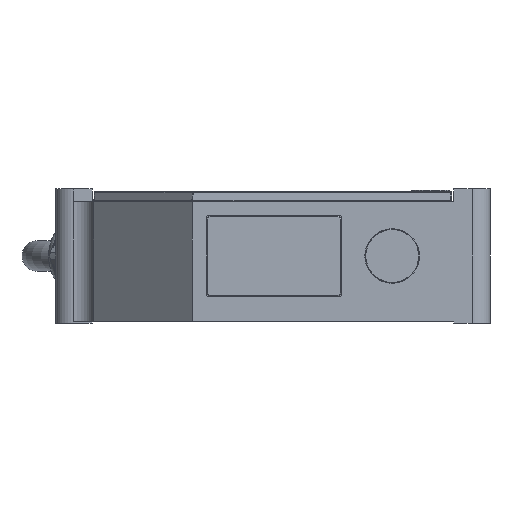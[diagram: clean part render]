
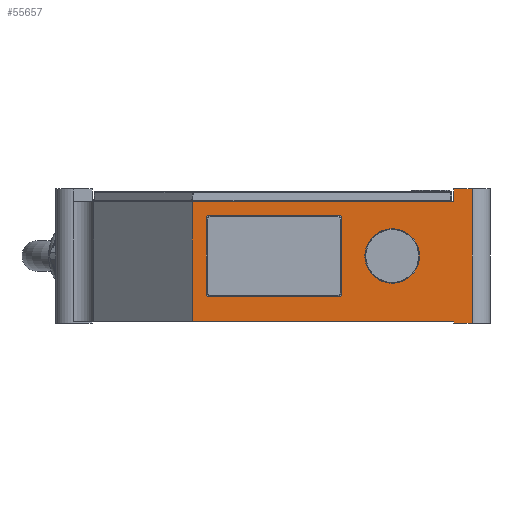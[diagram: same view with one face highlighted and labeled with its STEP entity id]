
A CAD part, front view. The second image highlights one B-rep face of the part: STEP entity #55657.
In plain terms, the highlighted planar face has unit normal (0, -1, 0).
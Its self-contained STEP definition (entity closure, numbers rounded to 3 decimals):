
#73 = FACE_BOUND ( 'NONE', #33496, .T. ) ;
#274 = VERTEX_POINT ( 'NONE', #63551 ) ;
#359 = LINE ( 'NONE', #23720, #47592 ) ;
#659 = CARTESIAN_POINT ( 'NONE',  ( -4., 0., -0.4 ) ) ;
#1026 = LINE ( 'NONE', #49041, #34990 ) ;
#1147 = ORIENTED_EDGE ( 'NONE', *, *, #40603, .F. ) ;
#1247 = VERTEX_POINT ( 'NONE', #55670 ) ;
#1859 = DIRECTION ( 'NONE',  ( 1., 0., 0. ) ) ;
#2172 = CARTESIAN_POINT ( 'NONE',  ( -4., 0., 26.7 ) ) ;
#2184 = CARTESIAN_POINT ( 'NONE',  ( -8.1, 0., 29.6 ) ) ;
#2214 = CARTESIAN_POINT ( 'NONE',  ( -8.1, 0., -0.4 ) ) ;
#2362 = CARTESIAN_POINT ( 'NONE',  ( -33.65, 0., 5.5 ) ) ;
#2383 = VECTOR ( 'NONE', #22023, 1000. ) ;
#2472 = EDGE_LOOP ( 'NONE', ( #7253 ) ) ;
#5381 = ORIENTED_EDGE ( 'NONE', *, *, #58037, .F. ) ;
#5930 = CARTESIAN_POINT ( 'NONE',  ( -4., 0., 29.6 ) ) ;
#6983 = ORIENTED_EDGE ( 'NONE', *, *, #71730, .T. ) ;
#7024 = VECTOR ( 'NONE', #53965, 1000. ) ;
#7089 = CARTESIAN_POINT ( 'NONE',  ( -62.85, 0., 5.5 ) ) ;
#7253 = ORIENTED_EDGE ( 'NONE', *, *, #45531, .F. ) ;
#10188 = EDGE_CURVE ( 'NONE', #58186, #15920, #62820, .T. ) ;
#10391 = DIRECTION ( 'NONE',  ( -1., 0., 0. ) ) ;
#10579 = ORIENTED_EDGE ( 'NONE', *, *, #71150, .F. ) ;
#10712 = DIRECTION ( 'NONE',  ( 0., 0., -1. ) ) ;
#10960 = DIRECTION ( 'NONE',  ( 0., 0., -1. ) ) ;
#11651 = DIRECTION ( 'NONE',  ( 1., 0., 0. ) ) ;
#11715 = CARTESIAN_POINT ( 'NONE',  ( -8.1, 0., 0. ) ) ;
#11733 = VERTEX_POINT ( 'NONE', #659 ) ;
#11966 = CARTESIAN_POINT ( 'NONE',  ( -15.75, 0., 14.6 ) ) ;
#12099 = DIRECTION ( 'NONE',  ( 0., 0., -1. ) ) ;
#12326 = LINE ( 'NONE', #2172, #54822 ) ;
#13049 = DIRECTION ( 'NONE',  ( 0., -1., 0. ) ) ;
#13418 = DIRECTION ( 'NONE',  ( -1., 0., 0. ) ) ;
#13506 = VECTOR ( 'NONE', #10960, 1000. ) ;
#13617 = EDGE_CURVE ( 'NONE', #70394, #15920, #44127, .T. ) ;
#14093 = DIRECTION ( 'NONE',  ( 0., 0., 1. ) ) ;
#15213 = CIRCLE ( 'NONE', #65572, 0.5 ) ;
#15919 = CARTESIAN_POINT ( 'NONE',  ( -62.85, 0., 23.7 ) ) ;
#15920 = VERTEX_POINT ( 'NONE', #11715 ) ;
#16165 = ORIENTED_EDGE ( 'NONE', *, *, #70068, .T. ) ;
#17003 = LINE ( 'NONE', #38494, #21826 ) ;
#17030 = PLANE ( 'NONE',  #42311 ) ;
#17606 = VERTEX_POINT ( 'NONE', #75875 ) ;
#18495 = VERTEX_POINT ( 'NONE', #72084 ) ;
#19416 = EDGE_CURVE ( 'NONE', #65793, #18495, #31119, .T. ) ;
#19851 = VERTEX_POINT ( 'NONE', #2184 ) ;
#20964 = CARTESIAN_POINT ( 'NONE',  ( -33.65, 0., 23.2 ) ) ;
#21147 = ORIENTED_EDGE ( 'NONE', *, *, #19416, .F. ) ;
#21826 = VECTOR ( 'NONE', #1859, 1000. ) ;
#22023 = DIRECTION ( 'NONE',  ( 1., 0., 0. ) ) ;
#23720 = CARTESIAN_POINT ( 'NONE',  ( -63.35, 0., 23.2 ) ) ;
#24675 = CARTESIAN_POINT ( 'NONE',  ( -21.85, 0., 14.6 ) ) ;
#25488 = VERTEX_POINT ( 'NONE', #54401 ) ;
#27010 = CARTESIAN_POINT ( 'NONE',  ( -33.65, 0., 23.7 ) ) ;
#28117 = DIRECTION ( 'NONE',  ( 0., -1., 0. ) ) ;
#28947 = CIRCLE ( 'NONE', #75768, 0.5 ) ;
#29230 = LINE ( 'NONE', #7089, #38688 ) ;
#29421 = LINE ( 'NONE', #47455, #65348 ) ;
#29439 = CARTESIAN_POINT ( 'NONE',  ( 0., 0., 26.7 ) ) ;
#30294 = EDGE_CURVE ( 'NONE', #1247, #65793, #44797, .T. ) ;
#31119 = LINE ( 'NONE', #15919, #76408 ) ;
#32492 = DIRECTION ( 'NONE',  ( 0., -1., 0. ) ) ;
#33496 = EDGE_LOOP ( 'NONE', ( #5381, #53839, #33858, #69058, #10579, #1147, #21147, #40430 ) ) ;
#33858 = ORIENTED_EDGE ( 'NONE', *, *, #54253, .F. ) ;
#34990 = VECTOR ( 'NONE', #13418, 1000. ) ;
#35739 = ORIENTED_EDGE ( 'NONE', *, *, #42352, .F. ) ;
#37862 = AXIS2_PLACEMENT_3D ( 'NONE', #24675, #13049, #55292 ) ;
#38494 = CARTESIAN_POINT ( 'NONE',  ( 0., 0., 26.7 ) ) ;
#38688 = VECTOR ( 'NONE', #68005, 1000. ) ;
#39907 = EDGE_CURVE ( 'NONE', #11733, #70394, #1026, .T. ) ;
#40430 = ORIENTED_EDGE ( 'NONE', *, *, #30294, .F. ) ;
#40603 = EDGE_CURVE ( 'NONE', #18495, #25488, #28947, .T. ) ;
#42119 = DIRECTION ( 'NONE',  ( 0., 1., 0. ) ) ;
#42311 = AXIS2_PLACEMENT_3D ( 'NONE', #29439, #42119, #77720 ) ;
#42352 = EDGE_CURVE ( 'NONE', #17606, #48159, #17003, .T. ) ;
#42673 = ORIENTED_EDGE ( 'NONE', *, *, #13617, .F. ) ;
#43607 = VERTEX_POINT ( 'NONE', #2362 ) ;
#44127 = LINE ( 'NONE', #50258, #61116 ) ;
#44461 = DIRECTION ( 'NONE',  ( -1., 0., 0. ) ) ;
#44797 = CIRCLE ( 'NONE', #57010, 0.5 ) ;
#45131 = DIRECTION ( 'NONE',  ( 1., 0., 0. ) ) ;
#45157 = EDGE_CURVE ( 'NONE', #11733, #274, #12326, .T. ) ;
#45531 = EDGE_CURVE ( 'NONE', #57485, #57485, #48059, .T. ) ;
#46099 = CARTESIAN_POINT ( 'NONE',  ( -33.15, 0., 6. ) ) ;
#47032 = CARTESIAN_POINT ( 'NONE',  ( -8.1, 0., 26.7 ) ) ;
#47056 = VERTEX_POINT ( 'NONE', #59670 ) ;
#47455 = CARTESIAN_POINT ( 'NONE',  ( -33.15, 0., 23.2 ) ) ;
#47592 = VECTOR ( 'NONE', #12099, 1000. ) ;
#48059 = CIRCLE ( 'NONE', #37862, 6.1 ) ;
#48159 = VERTEX_POINT ( 'NONE', #47032 ) ;
#49041 = CARTESIAN_POINT ( 'NONE',  ( -8.1, 0., -0.4 ) ) ;
#49129 = ORIENTED_EDGE ( 'NONE', *, *, #76274, .F. ) ;
#49272 = CARTESIAN_POINT ( 'NONE',  ( -66.5, 0., 0. ) ) ;
#50258 = CARTESIAN_POINT ( 'NONE',  ( -8.1, 0., -0.4 ) ) ;
#50781 = VERTEX_POINT ( 'NONE', #61286 ) ;
#53839 = ORIENTED_EDGE ( 'NONE', *, *, #60531, .F. ) ;
#53965 = DIRECTION ( 'NONE',  ( 1., 0., 0. ) ) ;
#54253 = EDGE_CURVE ( 'NONE', #50781, #43607, #29230, .T. ) ;
#54394 = CARTESIAN_POINT ( 'NONE',  ( -33.65, 0., 6. ) ) ;
#54401 = CARTESIAN_POINT ( 'NONE',  ( -63.35, 0., 23.2 ) ) ;
#54658 = DIRECTION ( 'NONE',  ( 0., -1., 0. ) ) ;
#54822 = VECTOR ( 'NONE', #68640, 1000. ) ;
#55292 = DIRECTION ( 'NONE',  ( 1., 0., 0. ) ) ;
#55657 = ADVANCED_FACE ( 'NONE', ( #66182, #73, #74633 ), #17030, .F. ) ;
#55670 = CARTESIAN_POINT ( 'NONE',  ( -33.15, 0., 23.2 ) ) ;
#56166 = LINE ( 'NONE', #5930, #7024 ) ;
#57010 = AXIS2_PLACEMENT_3D ( 'NONE', #20964, #68476, #44461 ) ;
#57485 = VERTEX_POINT ( 'NONE', #11966 ) ;
#57844 = VECTOR ( 'NONE', #10712, 1000. ) ;
#58037 = EDGE_CURVE ( 'NONE', #74916, #1247, #29421, .T. ) ;
#58186 = VERTEX_POINT ( 'NONE', #49272 ) ;
#58542 = EDGE_CURVE ( 'NONE', #47056, #50781, #75358, .T. ) ;
#58775 = CARTESIAN_POINT ( 'NONE',  ( -66.5, 0., 26.7 ) ) ;
#59670 = CARTESIAN_POINT ( 'NONE',  ( -63.35, 0., 6. ) ) ;
#60531 = EDGE_CURVE ( 'NONE', #43607, #74916, #15213, .T. ) ;
#61116 = VECTOR ( 'NONE', #14093, 1000. ) ;
#61286 = CARTESIAN_POINT ( 'NONE',  ( -62.85, 0., 5.5 ) ) ;
#61701 = LINE ( 'NONE', #64035, #13506 ) ;
#62820 = LINE ( 'NONE', #70073, #2383 ) ;
#62868 = ORIENTED_EDGE ( 'NONE', *, *, #45157, .T. ) ;
#63551 = CARTESIAN_POINT ( 'NONE',  ( -4., 0., 29.6 ) ) ;
#64035 = CARTESIAN_POINT ( 'NONE',  ( -8.1, 0., 29.6 ) ) ;
#64615 = ORIENTED_EDGE ( 'NONE', *, *, #10188, .T. ) ;
#65348 = VECTOR ( 'NONE', #77779, 1000. ) ;
#65572 = AXIS2_PLACEMENT_3D ( 'NONE', #54394, #54658, #11651 ) ;
#65793 = VERTEX_POINT ( 'NONE', #27010 ) ;
#66182 = FACE_BOUND ( 'NONE', #2472, .T. ) ;
#68005 = DIRECTION ( 'NONE',  ( 1., 0., 0. ) ) ;
#68476 = DIRECTION ( 'NONE',  ( 0., -1., 0. ) ) ;
#68640 = DIRECTION ( 'NONE',  ( 0., 0., 1. ) ) ;
#68643 = CARTESIAN_POINT ( 'NONE',  ( -62.85, 0., 23.2 ) ) ;
#69058 = ORIENTED_EDGE ( 'NONE', *, *, #58542, .F. ) ;
#69978 = AXIS2_PLACEMENT_3D ( 'NONE', #70619, #28117, #76925 ) ;
#70068 = EDGE_CURVE ( 'NONE', #19851, #48159, #61701, .T. ) ;
#70073 = CARTESIAN_POINT ( 'NONE',  ( 0., 0., 0. ) ) ;
#70077 = EDGE_LOOP ( 'NONE', ( #64615, #42673, #75308, #62868, #49129, #16165, #35739, #6983 ) ) ;
#70394 = VERTEX_POINT ( 'NONE', #2214 ) ;
#70619 = CARTESIAN_POINT ( 'NONE',  ( -62.85, 0., 6. ) ) ;
#71150 = EDGE_CURVE ( 'NONE', #25488, #47056, #359, .T. ) ;
#71730 = EDGE_CURVE ( 'NONE', #17606, #58186, #72014, .T. ) ;
#72014 = LINE ( 'NONE', #58775, #57844 ) ;
#72084 = CARTESIAN_POINT ( 'NONE',  ( -62.85, 0., 23.7 ) ) ;
#74633 = FACE_OUTER_BOUND ( 'NONE', #70077, .T. ) ;
#74916 = VERTEX_POINT ( 'NONE', #46099 ) ;
#75308 = ORIENTED_EDGE ( 'NONE', *, *, #39907, .F. ) ;
#75358 = CIRCLE ( 'NONE', #69978, 0.5 ) ;
#75768 = AXIS2_PLACEMENT_3D ( 'NONE', #68643, #32492, #45131 ) ;
#75875 = CARTESIAN_POINT ( 'NONE',  ( -66.5, 0., 26.7 ) ) ;
#76274 = EDGE_CURVE ( 'NONE', #19851, #274, #56166, .T. ) ;
#76408 = VECTOR ( 'NONE', #10391, 1000. ) ;
#76925 = DIRECTION ( 'NONE',  ( 1., 0., 0. ) ) ;
#77720 = DIRECTION ( 'NONE',  ( -1., 0., 0. ) ) ;
#77779 = DIRECTION ( 'NONE',  ( 0., 0., 1. ) ) ;
